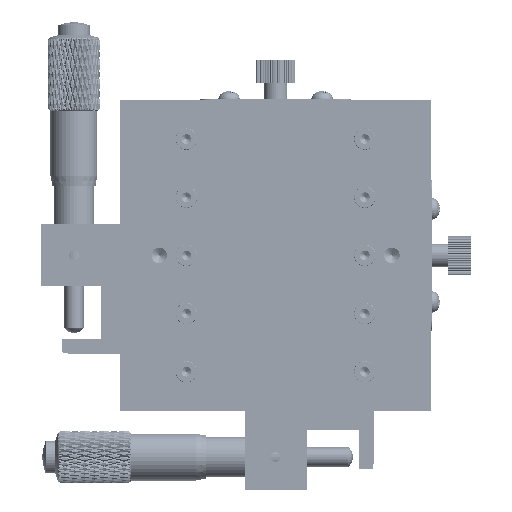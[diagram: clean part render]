
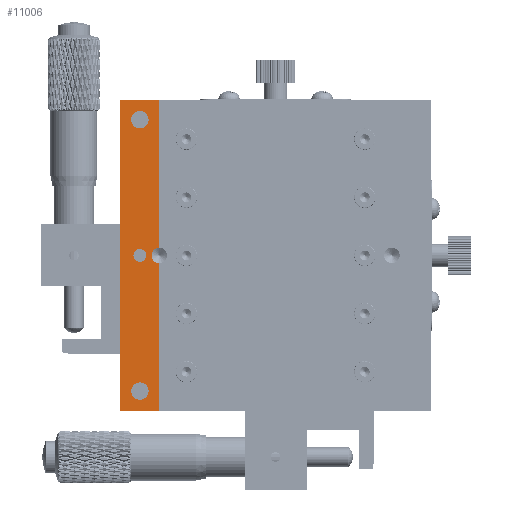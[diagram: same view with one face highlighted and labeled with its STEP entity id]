
A CAD part, front view. The second image highlights one B-rep face of the part: STEP entity #11006.
In plain terms, the highlighted planar face has unit normal (0, -1, 0).
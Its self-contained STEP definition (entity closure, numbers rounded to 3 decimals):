
#1234 = AXIS2_PLACEMENT_3D ( 'NONE', #38917, #84793, #45511 ) ;
#1516 = DIRECTION ( 'NONE',  ( 0., 1., 0. ) ) ;
#4213 = FACE_BOUND ( 'NONE', #30848, .T. ) ;
#4566 = VERTEX_POINT ( 'NONE', #54476 ) ;
#5632 = ORIENTED_EDGE ( 'NONE', *, *, #34398, .T. ) ;
#5890 = CARTESIAN_POINT ( 'NONE',  ( -30., 0., 40. ) ) ;
#5951 = CARTESIAN_POINT ( 'NONE',  ( -30., 0., 40. ) ) ;
#6089 = VERTEX_POINT ( 'NONE', #36688 ) ;
#6119 = CARTESIAN_POINT ( 'NONE',  ( -30., 0., 0. ) ) ;
#6621 = LINE ( 'NONE', #5890, #37344 ) ;
#10713 = CARTESIAN_POINT ( 'NONE',  ( -40., 0., 40. ) ) ;
#11006 = ADVANCED_FACE ( 'NONE', ( #34966, #52412, #4213, #17555 ), #17302, .F. ) ;
#11464 = VERTEX_POINT ( 'NONE', #29212 ) ;
#11587 = EDGE_CURVE ( 'NONE', #69151, #23954, #79017, .T. ) ;
#12592 = CARTESIAN_POINT ( 'NONE',  ( -35., 0., 1.65 ) ) ;
#12702 = DIRECTION ( 'NONE',  ( 0., 0., -1. ) ) ;
#14668 = CARTESIAN_POINT ( 'NONE',  ( -40., 0., 40. ) ) ;
#15425 = AXIS2_PLACEMENT_3D ( 'NONE', #6119, #51937, #12702 ) ;
#16013 = ORIENTED_EDGE ( 'NONE', *, *, #25081, .F. ) ;
#16934 = CARTESIAN_POINT ( 'NONE',  ( -35., 0., 37.25 ) ) ;
#17302 = PLANE ( 'NONE',  #49829 ) ;
#17513 = CIRCLE ( 'NONE', #1234, 2.25 ) ;
#17555 = FACE_OUTER_BOUND ( 'NONE', #69257, .T. ) ;
#18981 = DIRECTION ( 'NONE',  ( 0., 1., 0. ) ) ;
#19178 = ORIENTED_EDGE ( 'NONE', *, *, #78210, .T. ) ;
#19270 = CARTESIAN_POINT ( 'NONE',  ( -30., 0., -40. ) ) ;
#19626 = EDGE_CURVE ( 'NONE', #73505, #40082, #70972, .T. ) ;
#20350 = DIRECTION ( 'NONE',  ( 0., 1., 0. ) ) ;
#20784 = EDGE_CURVE ( 'NONE', #40082, #73505, #34040, .T. ) ;
#21917 = VECTOR ( 'NONE', #71551, 1000. ) ;
#23462 = DIRECTION ( 'NONE',  ( 0., 1., 0. ) ) ;
#23954 = VERTEX_POINT ( 'NONE', #51330 ) ;
#25081 = EDGE_CURVE ( 'NONE', #46925, #64519, #6621, .T. ) ;
#25401 = CARTESIAN_POINT ( 'NONE',  ( -35., 0., 35. ) ) ;
#26371 = EDGE_LOOP ( 'NONE', ( #40189, #43319 ) ) ;
#28374 = DIRECTION ( 'NONE',  ( 0., 0., -1. ) ) ;
#28725 = CARTESIAN_POINT ( 'NONE',  ( -40., 0., 40. ) ) ;
#29212 = CARTESIAN_POINT ( 'NONE',  ( -30., 0., 2. ) ) ;
#30510 = AXIS2_PLACEMENT_3D ( 'NONE', #40758, #1516, #47353 ) ;
#30848 = EDGE_LOOP ( 'NONE', ( #19178, #45774 ) ) ;
#31955 = DIRECTION ( 'NONE',  ( 0., 0., 1. ) ) ;
#32084 = CARTESIAN_POINT ( 'NONE',  ( -35., 0., -32.75 ) ) ;
#32211 = EDGE_CURVE ( 'NONE', #44712, #4566, #63911, .T. ) ;
#33209 = EDGE_CURVE ( 'NONE', #11464, #46925, #51442, .T. ) ;
#34040 = CIRCLE ( 'NONE', #58439, 1.65 ) ;
#34398 = EDGE_CURVE ( 'NONE', #23954, #69151, #17513, .T. ) ;
#34966 = FACE_BOUND ( 'NONE', #26371, .T. ) ;
#35244 = ORIENTED_EDGE ( 'NONE', *, *, #33209, .F. ) ;
#36688 = CARTESIAN_POINT ( 'NONE',  ( -35., 0., 32.75 ) ) ;
#37044 = DIRECTION ( 'NONE',  ( 0., 1., 0. ) ) ;
#37344 = VECTOR ( 'NONE', #45129, 1000. ) ;
#38258 = ORIENTED_EDGE ( 'NONE', *, *, #32211, .F. ) ;
#38917 = CARTESIAN_POINT ( 'NONE',  ( -35., 0., -35. ) ) ;
#40082 = VERTEX_POINT ( 'NONE', #54322 ) ;
#40189 = ORIENTED_EDGE ( 'NONE', *, *, #19626, .T. ) ;
#40758 = CARTESIAN_POINT ( 'NONE',  ( -35., 0., 35. ) ) ;
#40810 = LINE ( 'NONE', #14668, #73632 ) ;
#41401 = LINE ( 'NONE', #5951, #21917 ) ;
#43319 = ORIENTED_EDGE ( 'NONE', *, *, #20784, .T. ) ;
#43862 = EDGE_CURVE ( 'NONE', #61701, #64519, #75009, .T. ) ;
#44712 = VERTEX_POINT ( 'NONE', #28725 ) ;
#44871 = ORIENTED_EDGE ( 'NONE', *, *, #49056, .F. ) ;
#45129 = DIRECTION ( 'NONE',  ( 0., 0., -1. ) ) ;
#45511 = DIRECTION ( 'NONE',  ( 0., 0., 1. ) ) ;
#45774 = ORIENTED_EDGE ( 'NONE', *, *, #60727, .T. ) ;
#46925 = VERTEX_POINT ( 'NONE', #84388 ) ;
#47305 = DIRECTION ( 'NONE',  ( 1., 0., 0. ) ) ;
#47353 = DIRECTION ( 'NONE',  ( 0., 0., 1. ) ) ;
#47358 = EDGE_CURVE ( 'NONE', #44712, #61701, #40810, .T. ) ;
#49056 = EDGE_CURVE ( 'NONE', #4566, #11464, #41401, .T. ) ;
#49829 = AXIS2_PLACEMENT_3D ( 'NONE', #10713, #37044, #82910 ) ;
#51330 = CARTESIAN_POINT ( 'NONE',  ( -35., 0., -37.25 ) ) ;
#51442 = CIRCLE ( 'NONE', #15425, 2. ) ;
#51937 = DIRECTION ( 'NONE',  ( 0., -1., 0. ) ) ;
#52412 = FACE_BOUND ( 'NONE', #75856, .T. ) ;
#54322 = CARTESIAN_POINT ( 'NONE',  ( -35., 0., -1.65 ) ) ;
#54476 = CARTESIAN_POINT ( 'NONE',  ( -30., 0., 40. ) ) ;
#57528 = VECTOR ( 'NONE', #84233, 1000. ) ;
#57734 = ORIENTED_EDGE ( 'NONE', *, *, #47358, .T. ) ;
#58207 = CARTESIAN_POINT ( 'NONE',  ( -35., 0., 0. ) ) ;
#58439 = AXIS2_PLACEMENT_3D ( 'NONE', #59617, #20350, #66249 ) ;
#59160 = CARTESIAN_POINT ( 'NONE',  ( -40., 0., 40. ) ) ;
#59617 = CARTESIAN_POINT ( 'NONE',  ( -35., 0., 0. ) ) ;
#60727 = EDGE_CURVE ( 'NONE', #6089, #80713, #71421, .T. ) ;
#61701 = VERTEX_POINT ( 'NONE', #63877 ) ;
#62776 = CARTESIAN_POINT ( 'NONE',  ( -35., 0., -35. ) ) ;
#63877 = CARTESIAN_POINT ( 'NONE',  ( -40., 0., -40. ) ) ;
#63911 = LINE ( 'NONE', #59160, #83387 ) ;
#64519 = VERTEX_POINT ( 'NONE', #19270 ) ;
#64868 = DIRECTION ( 'NONE',  ( 0., 0., 1. ) ) ;
#65522 = AXIS2_PLACEMENT_3D ( 'NONE', #58207, #18981, #64868 ) ;
#65775 = ORIENTED_EDGE ( 'NONE', *, *, #43862, .T. ) ;
#66249 = DIRECTION ( 'NONE',  ( 0., 0., 1. ) ) ;
#68049 = CIRCLE ( 'NONE', #80149, 2.25 ) ;
#68592 = AXIS2_PLACEMENT_3D ( 'NONE', #62776, #23462, #69373 ) ;
#69151 = VERTEX_POINT ( 'NONE', #32084 ) ;
#69257 = EDGE_LOOP ( 'NONE', ( #16013, #35244, #44871, #38258, #57734, #65775 ) ) ;
#69373 = DIRECTION ( 'NONE',  ( 0., 0., 1. ) ) ;
#70972 = CIRCLE ( 'NONE', #65522, 1.65 ) ;
#71041 = CARTESIAN_POINT ( 'NONE',  ( -40., 0., -40. ) ) ;
#71269 = DIRECTION ( 'NONE',  ( 0., 1., 0. ) ) ;
#71421 = CIRCLE ( 'NONE', #30510, 2.25 ) ;
#71551 = DIRECTION ( 'NONE',  ( 0., 0., -1. ) ) ;
#73505 = VERTEX_POINT ( 'NONE', #12592 ) ;
#73632 = VECTOR ( 'NONE', #28374, 1000. ) ;
#75009 = LINE ( 'NONE', #71041, #57528 ) ;
#75856 = EDGE_LOOP ( 'NONE', ( #84824, #5632 ) ) ;
#78210 = EDGE_CURVE ( 'NONE', #80713, #6089, #68049, .T. ) ;
#79017 = CIRCLE ( 'NONE', #68592, 2.25 ) ;
#80149 = AXIS2_PLACEMENT_3D ( 'NONE', #25401, #71269, #31955 ) ;
#80713 = VERTEX_POINT ( 'NONE', #16934 ) ;
#82910 = DIRECTION ( 'NONE',  ( 0., 0., 1. ) ) ;
#83387 = VECTOR ( 'NONE', #47305, 1000. ) ;
#84233 = DIRECTION ( 'NONE',  ( 1., 0., 0. ) ) ;
#84388 = CARTESIAN_POINT ( 'NONE',  ( -30., 0., -2. ) ) ;
#84793 = DIRECTION ( 'NONE',  ( 0., 1., 0. ) ) ;
#84824 = ORIENTED_EDGE ( 'NONE', *, *, #11587, .T. ) ;
